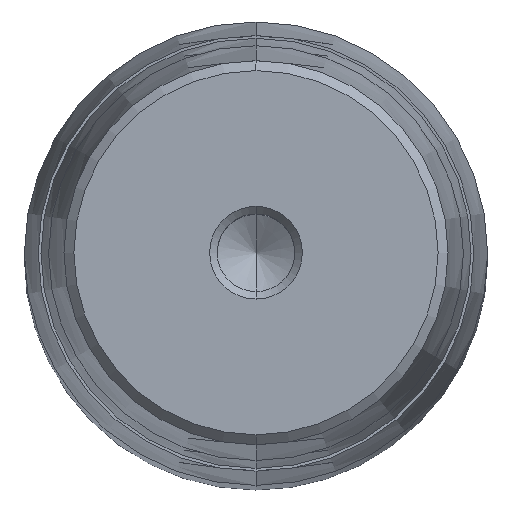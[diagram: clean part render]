
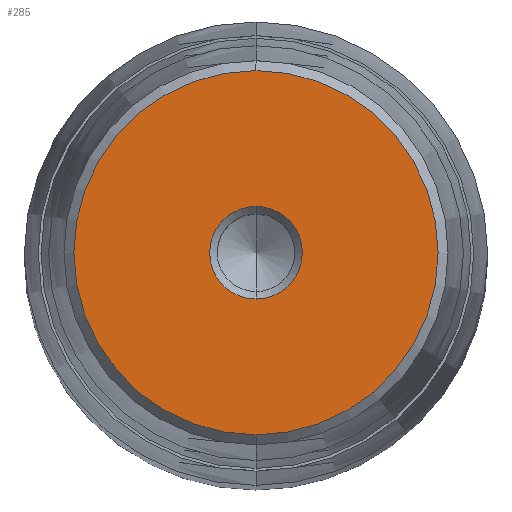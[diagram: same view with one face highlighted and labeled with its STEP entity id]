
A CAD part, top view. The second image highlights one B-rep face of the part: STEP entity #285.
In plain terms, the highlighted planar face has unit normal (0, 0, 1).
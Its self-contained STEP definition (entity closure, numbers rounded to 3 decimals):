
#164=CARTESIAN_POINT('Axis2P3D Location',(0.,0.,58.)) ;
#168=CARTESIAN_POINT('Vertex',(5.,0.,58.)) ;
#170=CARTESIAN_POINT('Vertex',(0.,-5.,58.)) ;
#173=CARTESIAN_POINT('Axis2P3D Location',(0.,0.,58.)) ;
#177=CARTESIAN_POINT('Vertex',(0.,5.,58.)) ;
#228=CARTESIAN_POINT('Axis2P3D Location',(0.,5.,58.)) ;
#233=CARTESIAN_POINT('Axis2P3D Location',(0.,0.,58.)) ;
#237=CARTESIAN_POINT('Vertex',(0.,19.65,58.)) ;
#239=CARTESIAN_POINT('Vertex',(19.65,0.,58.)) ;
#242=CARTESIAN_POINT('Axis2P3D Location',(0.,0.,58.)) ;
#246=CARTESIAN_POINT('Vertex',(-19.65,0.,58.)) ;
#249=CARTESIAN_POINT('Axis2P3D Location',(0.,0.,58.)) ;
#253=CARTESIAN_POINT('Vertex',(0.,-19.65,58.)) ;
#256=CARTESIAN_POINT('Axis2P3D Location',(0.,0.,58.)) ;
#267=CARTESIAN_POINT('Axis2P3D Location',(0.,0.,58.)) ;
#271=CARTESIAN_POINT('Vertex',(-5.,0.,58.)) ;
#274=CARTESIAN_POINT('Axis2P3D Location',(0.,0.,58.)) ;
#165=DIRECTION('Axis2P3D Direction',(0.,0.,1.)) ;
#174=DIRECTION('Axis2P3D Direction',(0.,0.,1.)) ;
#229=DIRECTION('Axis2P3D Direction',(-0.,0.,-1.)) ;
#230=DIRECTION('Axis2P3D XDirection',(0.,1.,0.)) ;
#234=DIRECTION('Axis2P3D Direction',(-0.,0.,-1.)) ;
#243=DIRECTION('Axis2P3D Direction',(-0.,0.,-1.)) ;
#250=DIRECTION('Axis2P3D Direction',(-0.,0.,-1.)) ;
#257=DIRECTION('Axis2P3D Direction',(-0.,0.,-1.)) ;
#268=DIRECTION('Axis2P3D Direction',(-0.,0.,-1.)) ;
#275=DIRECTION('Axis2P3D Direction',(-0.,0.,-1.)) ;
#166=AXIS2_PLACEMENT_3D('Circle Axis2P3D',#164,#165,$) ;
#175=AXIS2_PLACEMENT_3D('Circle Axis2P3D',#173,#174,$) ;
#231=AXIS2_PLACEMENT_3D('Plane Axis2P3D',#228,#229,#230) ;
#235=AXIS2_PLACEMENT_3D('Circle Axis2P3D',#233,#234,$) ;
#244=AXIS2_PLACEMENT_3D('Circle Axis2P3D',#242,#243,$) ;
#251=AXIS2_PLACEMENT_3D('Circle Axis2P3D',#249,#250,$) ;
#258=AXIS2_PLACEMENT_3D('Circle Axis2P3D',#256,#257,$) ;
#269=AXIS2_PLACEMENT_3D('Circle Axis2P3D',#267,#268,$) ;
#276=AXIS2_PLACEMENT_3D('Circle Axis2P3D',#274,#275,$) ;
#262=ORIENTED_EDGE('',*,*,#241,.F.) ;
#263=ORIENTED_EDGE('',*,*,#248,.F.) ;
#264=ORIENTED_EDGE('',*,*,#255,.F.) ;
#265=ORIENTED_EDGE('',*,*,#260,.F.) ;
#280=ORIENTED_EDGE('',*,*,#172,.T.) ;
#281=ORIENTED_EDGE('',*,*,#273,.T.) ;
#282=ORIENTED_EDGE('',*,*,#278,.T.) ;
#283=ORIENTED_EDGE('',*,*,#179,.T.) ;
#284=FACE_BOUND('',#279,.T.) ;
#285=ADVANCED_FACE('722-50x315x355',(#266,#284),#232,.F.) ;
#167=CIRCLE('generated circle',#166,5.) ;
#176=CIRCLE('generated circle',#175,5.) ;
#236=CIRCLE('generated circle',#235,19.65) ;
#245=CIRCLE('generated circle',#244,19.65) ;
#252=CIRCLE('generated circle',#251,19.65) ;
#259=CIRCLE('generated circle',#258,19.65) ;
#270=CIRCLE('generated circle',#269,5.) ;
#277=CIRCLE('generated circle',#276,5.) ;
#172=EDGE_CURVE('',#169,#171,#167,.F.) ;
#179=EDGE_CURVE('',#178,#169,#176,.F.) ;
#241=EDGE_CURVE('',#238,#240,#236,.T.) ;
#248=EDGE_CURVE('',#247,#238,#245,.T.) ;
#255=EDGE_CURVE('',#254,#247,#252,.T.) ;
#260=EDGE_CURVE('',#240,#254,#259,.T.) ;
#273=EDGE_CURVE('',#171,#272,#270,.T.) ;
#278=EDGE_CURVE('',#272,#178,#277,.T.) ;
#261=EDGE_LOOP('',(#262,#263,#264,#265)) ;
#279=EDGE_LOOP('',(#280,#281,#282,#283)) ;
#266=FACE_OUTER_BOUND('',#261,.T.) ;
#232=PLANE('Plane',#231) ;
#169=VERTEX_POINT('',#168) ;
#171=VERTEX_POINT('',#170) ;
#178=VERTEX_POINT('',#177) ;
#238=VERTEX_POINT('',#237) ;
#240=VERTEX_POINT('',#239) ;
#247=VERTEX_POINT('',#246) ;
#254=VERTEX_POINT('',#253) ;
#272=VERTEX_POINT('',#271) ;
